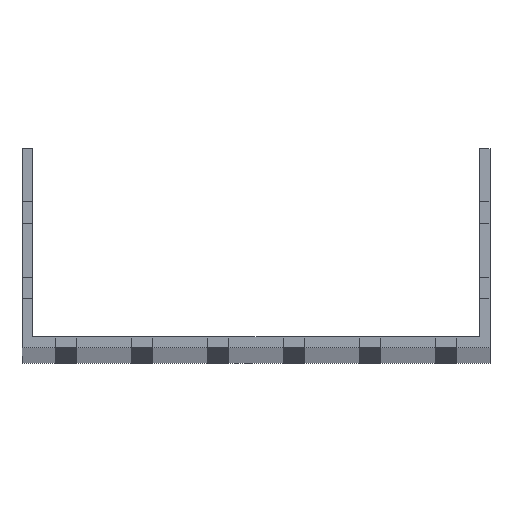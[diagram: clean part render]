
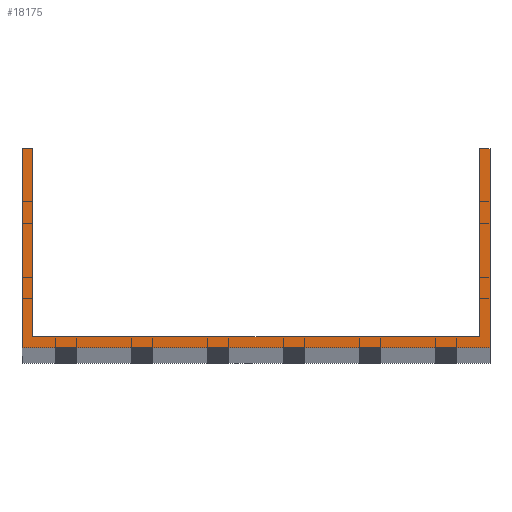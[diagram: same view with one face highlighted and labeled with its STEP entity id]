
A CAD part, top view. The second image highlights one B-rep face of the part: STEP entity #18175.
In plain terms, the highlighted planar face has unit normal (0, 0, 1).
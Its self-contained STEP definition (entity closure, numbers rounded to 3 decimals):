
#1461 = VERTEX_POINT ( 'NONE', #6391 ) ;
#5574 = FACE_OUTER_BOUND ( 'NONE', #44141, .T. ) ;
#6288 = LINE ( 'NONE', #36568, #80309 ) ;
#6391 = CARTESIAN_POINT ( 'NONE',  ( 73.5, 3.5, 1500. ) ) ;
#7564 = VECTOR ( 'NONE', #11027, 1000. ) ;
#8124 = VECTOR ( 'NONE', #75348, 1000. ) ;
#11027 = DIRECTION ( 'NONE',  ( 0., -1., 0. ) ) ;
#15700 = EDGE_CURVE ( 'NONE', #66407, #71063, #52040, .T. ) ;
#15746 = CARTESIAN_POINT ( 'NONE',  ( -77., 0., 1500. ) ) ;
#16608 = CARTESIAN_POINT ( 'NONE',  ( -77., 0., 1500. ) ) ;
#18175 = ADVANCED_FACE ( 'NONE', ( #5574 ), #87462, .T. ) ;
#19008 = ORIENTED_EDGE ( 'NONE', *, *, #65788, .F. ) ;
#19480 = DIRECTION ( 'NONE',  ( 1., 0., 0. ) ) ;
#22509 = EDGE_CURVE ( 'NONE', #36620, #54536, #6288, .T. ) ;
#23749 = EDGE_CURVE ( 'NONE', #53507, #92393, #48734, .T. ) ;
#24112 = DIRECTION ( 'NONE',  ( 0., 1., 0. ) ) ;
#26880 = VERTEX_POINT ( 'NONE', #48883 ) ;
#30553 = VECTOR ( 'NONE', #36344, 1000. ) ;
#32185 = CARTESIAN_POINT ( 'NONE',  ( 77., 65.5, 1500. ) ) ;
#33014 = LINE ( 'NONE', #63287, #92018 ) ;
#34020 = CARTESIAN_POINT ( 'NONE',  ( 73.5, 65.5, 1500. ) ) ;
#36344 = DIRECTION ( 'NONE',  ( 1., 0., 0. ) ) ;
#36568 = CARTESIAN_POINT ( 'NONE',  ( -77., 65.5, 1500. ) ) ;
#36620 = VERTEX_POINT ( 'NONE', #49854 ) ;
#37304 = CARTESIAN_POINT ( 'NONE',  ( -77., 65.5, 1500. ) ) ;
#44141 = EDGE_LOOP ( 'NONE', ( #45139, #64247, #54206, #53711, #97716, #70510, #89299, #19008 ) ) ;
#45139 = ORIENTED_EDGE ( 'NONE', *, *, #23749, .F. ) ;
#45526 = DIRECTION ( 'NONE',  ( 1., 0., 0. ) ) ;
#46707 = VECTOR ( 'NONE', #45526, 1000. ) ;
#48306 = AXIS2_PLACEMENT_3D ( 'NONE', #50735, #68427, #19480 ) ;
#48473 = EDGE_CURVE ( 'NONE', #54536, #26880, #83722, .T. ) ;
#48734 = LINE ( 'NONE', #79005, #7564 ) ;
#48883 = CARTESIAN_POINT ( 'NONE',  ( 77., 0., 1500. ) ) ;
#49854 = CARTESIAN_POINT ( 'NONE',  ( -77., 65.5, 1500. ) ) ;
#50735 = CARTESIAN_POINT ( 'NONE',  ( 0., 0., 1500. ) ) ;
#52040 = LINE ( 'NONE', #59975, #8124 ) ;
#53507 = VERTEX_POINT ( 'NONE', #82392 ) ;
#53645 = LINE ( 'NONE', #37304, #79958 ) ;
#53711 = ORIENTED_EDGE ( 'NONE', *, *, #48473, .T. ) ;
#54206 = ORIENTED_EDGE ( 'NONE', *, *, #22509, .T. ) ;
#54536 = VERTEX_POINT ( 'NONE', #16608 ) ;
#59975 = CARTESIAN_POINT ( 'NONE',  ( -77., 65.5, 1500. ) ) ;
#61173 = LINE ( 'NONE', #83995, #79824 ) ;
#63287 = CARTESIAN_POINT ( 'NONE',  ( 77., 65.5, 1500. ) ) ;
#64247 = ORIENTED_EDGE ( 'NONE', *, *, #94573, .T. ) ;
#65788 = EDGE_CURVE ( 'NONE', #92393, #1461, #74547, .T. ) ;
#66407 = VERTEX_POINT ( 'NONE', #32185 ) ;
#68427 = DIRECTION ( 'NONE',  ( 0., 0., 1. ) ) ;
#70510 = ORIENTED_EDGE ( 'NONE', *, *, #15700, .T. ) ;
#70809 = CARTESIAN_POINT ( 'NONE',  ( -73.5, 3.5, 1500. ) ) ;
#71063 = VERTEX_POINT ( 'NONE', #34020 ) ;
#74547 = LINE ( 'NONE', #95880, #30553 ) ;
#74766 = DIRECTION ( 'NONE',  ( 0., -1., 0. ) ) ;
#75348 = DIRECTION ( 'NONE',  ( -1., 0., 0. ) ) ;
#76552 = DIRECTION ( 'NONE',  ( 0., 1., 0. ) ) ;
#78554 = EDGE_CURVE ( 'NONE', #26880, #66407, #33014, .T. ) ;
#79005 = CARTESIAN_POINT ( 'NONE',  ( -73.5, 65.5, 1500. ) ) ;
#79824 = VECTOR ( 'NONE', #76552, 1000. ) ;
#79958 = VECTOR ( 'NONE', #97343, 1000. ) ;
#80309 = VECTOR ( 'NONE', #74766, 1000. ) ;
#82392 = CARTESIAN_POINT ( 'NONE',  ( -73.5, 65.5, 1500. ) ) ;
#83722 = LINE ( 'NONE', #15746, #46707 ) ;
#83995 = CARTESIAN_POINT ( 'NONE',  ( 73.5, 65.5, 1500. ) ) ;
#87462 = PLANE ( 'NONE',  #48306 ) ;
#89299 = ORIENTED_EDGE ( 'NONE', *, *, #92025, .F. ) ;
#92018 = VECTOR ( 'NONE', #24112, 1000. ) ;
#92025 = EDGE_CURVE ( 'NONE', #1461, #71063, #61173, .T. ) ;
#92393 = VERTEX_POINT ( 'NONE', #70809 ) ;
#94573 = EDGE_CURVE ( 'NONE', #53507, #36620, #53645, .T. ) ;
#95880 = CARTESIAN_POINT ( 'NONE',  ( -77., 3.5, 1500. ) ) ;
#97343 = DIRECTION ( 'NONE',  ( -1., 0., 0. ) ) ;
#97716 = ORIENTED_EDGE ( 'NONE', *, *, #78554, .T. ) ;
